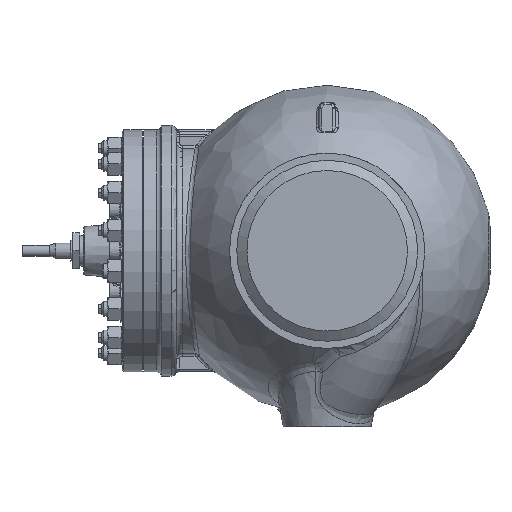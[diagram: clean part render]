
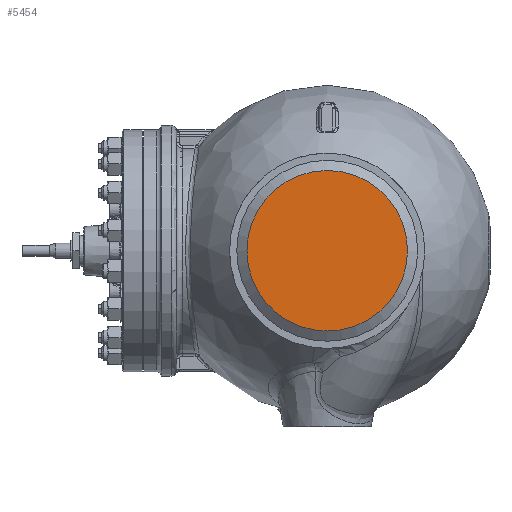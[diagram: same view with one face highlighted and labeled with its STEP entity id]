
A CAD part, left-side view. The second image highlights one B-rep face of the part: STEP entity #5454.
In plain terms, the highlighted planar face has unit normal (-1, 0, 0).
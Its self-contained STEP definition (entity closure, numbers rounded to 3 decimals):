
#742=PLANE('',#23002);
#5454=ADVANCED_FACE('',(#7078),#742,.T.);
#7078=FACE_OUTER_BOUND('',#8335,.T.);
#8335=EDGE_LOOP('',(#10313));
#10313=ORIENTED_EDGE('',*,*,#18746,.T.);
#16703=VERTEX_POINT('',#31847);
#18746=EDGE_CURVE('',#16703,#16703,#21926,.T.);
#21926=CIRCLE('',#23001,145.97);
#23001=AXIS2_PLACEMENT_3D('',#31846,#25512,#25513);
#23002=AXIS2_PLACEMENT_3D('',#31848,#25514,#25515);
#25512=DIRECTION('',(-1.,0.,0.));
#25513=DIRECTION('',(0.,0.,1.));
#25514=DIRECTION('',(-1.,0.,0.));
#25515=DIRECTION('',(0.,0.,1.));
#31846=CARTESIAN_POINT('',(-409.5,0.,0.));
#31847=CARTESIAN_POINT('',(-409.5,0.,145.97));
#31848=CARTESIAN_POINT('',(-409.5,144.47,0.));
